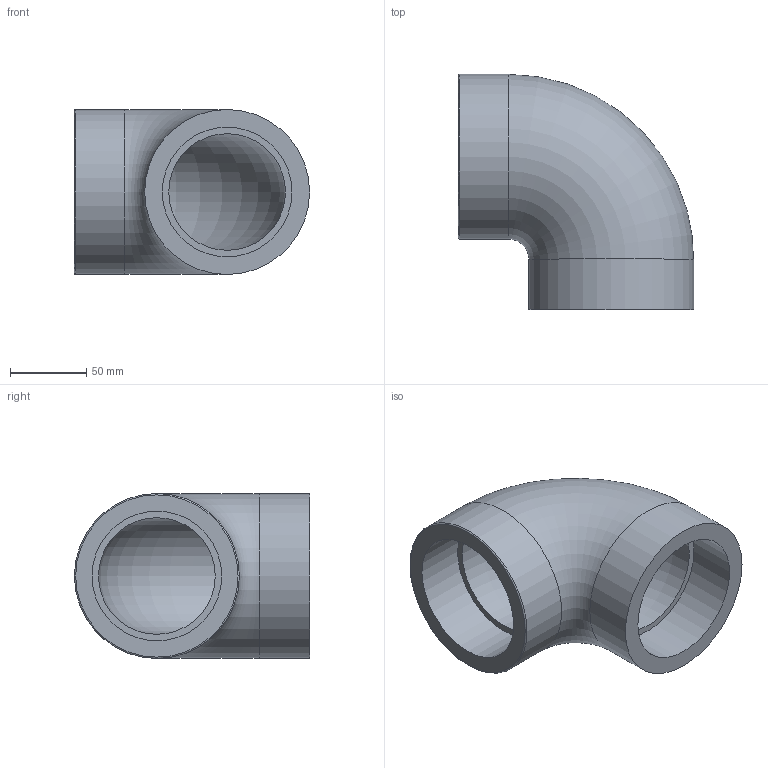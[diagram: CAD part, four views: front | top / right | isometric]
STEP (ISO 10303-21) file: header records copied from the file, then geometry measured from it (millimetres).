
FILE_DESCRIPTION(/* description */ ('PLASSON THREADED 90° ELBOW PVC 3"'),/* implementation_level */ '2;1');
FILE_NAME(/* name */ 'C:\Dropbox\KIMPROJECTS-Inventor\99-16-3568-Processing\PVC Catalog 2017\050501\050501030.ipt.stp',/* time_stamp */ '2017-12-07T15:56:10+02:00',/* author */ ('KIM'),/* organization */ (''),/* preprocessor_version */ 'ST-DEVELOPER v15.6',/* originating_system */ 'Autodesk Inventor 2015',/* authorisation */ '');
FILE_SCHEMA (('AUTOMOTIVE_DESIGN { 1 0 10303 214 3 1 1 }'));
Length unit declared in the file: millimetre
Products named in the file (1): 050501030
Bounding box: 154 x 154 x 108 mm (x, y, z)
Volume: 711929.9 mm3; surface area: 110002.9 mm2
Topology: 1 solids, 1 shells, 11 faces, 21 edges, 14 vertices
Faces by surface type: cylinder 4, plane 4, torus 3
Full cylindrical faces by diameter (mm): 84.926 x2, 108 x2
Entity records: 252 total; most frequent: DIRECTION 46, CARTESIAN_POINT 34, AXIS2_PLACEMENT_3D 23, EDGE_LOOP 22, ORIENTED_EDGE 22, FACE_BOUND 11, FACE_OUTER_BOUND 11, CIRCLE 11
